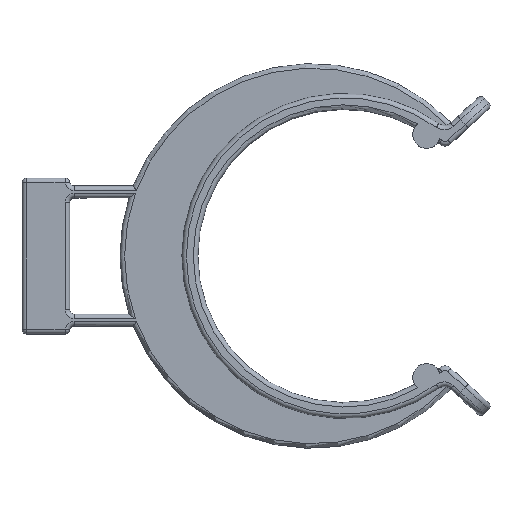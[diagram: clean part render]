
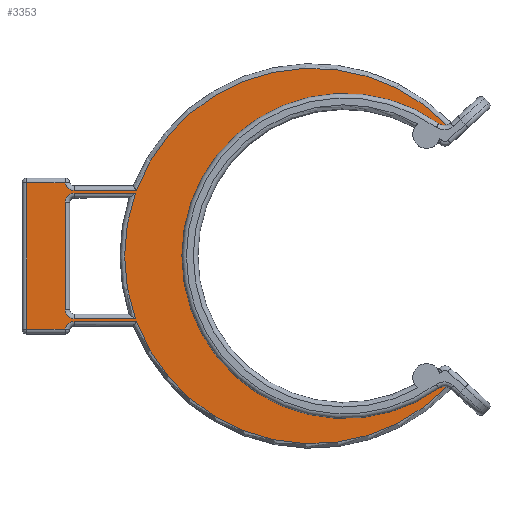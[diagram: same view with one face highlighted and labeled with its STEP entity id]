
A CAD part, top view. The second image highlights one B-rep face of the part: STEP entity #3353.
In plain terms, the highlighted planar face has unit normal (0, 0, 1).
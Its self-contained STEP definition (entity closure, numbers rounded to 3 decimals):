
#595=CARTESIAN_POINT('',(-3.5,0.,-2.75));
#596=DIRECTION('',(0.,0.,1.));
#597=DIRECTION('',(0.717,0.697,0.));
#598=AXIS2_PLACEMENT_3D('',#595,#596,#597);
#619=CARTESIAN_POINT('',(11.19,14.299,-2.75));
#620=CARTESIAN_POINT('',(11.116,14.276,-2.75));
#621=CARTESIAN_POINT('',(10.967,14.25,-2.75));
#622=CARTESIAN_POINT('',(10.737,14.261,-2.75));
#623=CARTESIAN_POINT('',(10.518,14.323,-2.75));
#624=CARTESIAN_POINT('',(10.382,14.397,-2.75));
#625=CARTESIAN_POINT('',(10.321,14.441,-2.75));
#627=CARTESIAN_POINT('',(0.,0.,-2.75));
#628=DIRECTION('',(0.,0.,-1.));
#629=DIRECTION('',(0.582,-0.813,0.));
#630=AXIS2_PLACEMENT_3D('',#627,#628,#629);
#632=CARTESIAN_POINT('',(10.321,-14.441,-2.75));
#633=CARTESIAN_POINT('',(10.382,-14.397,-2.75));
#634=CARTESIAN_POINT('',(10.518,-14.323,-2.75));
#635=CARTESIAN_POINT('',(10.737,-14.261,-2.75));
#636=CARTESIAN_POINT('',(10.967,-14.25,-2.75));
#637=CARTESIAN_POINT('',(11.116,-14.276,-2.75));
#638=CARTESIAN_POINT('',(11.19,-14.299,-2.75));
#640=DIRECTION('',(1.,0.,0.));
#641=VECTOR('',#640,6.678);
#642=CARTESIAN_POINT('',(-29.5,-6.85,-2.75));
#643=LINE('',#642,#641);
#670=CARTESIAN_POINT('',(-29.5,-5.85,-2.75));
#671=DIRECTION('',(0.,0.,1.));
#672=DIRECTION('',(-1.,0.,0.));
#673=AXIS2_PLACEMENT_3D('',#670,#671,#672);
#720=DIRECTION('',(0.,-1.,0.));
#721=VECTOR('',#720,11.7);
#722=CARTESIAN_POINT('',(-30.5,5.85,-2.75));
#723=LINE('',#722,#721);
#734=CARTESIAN_POINT('',(-29.5,5.85,-2.75));
#735=DIRECTION('',(0.,0.,1.));
#736=DIRECTION('',(0.,1.,0.));
#737=AXIS2_PLACEMENT_3D('',#734,#735,#736);
#979=DIRECTION('',(-1.,0.,0.));
#980=VECTOR('',#979,6.678);
#981=CARTESIAN_POINT('',(-22.822,6.85,-2.75));
#982=LINE('',#981,#980);
#995=CARTESIAN_POINT('',(-3.5,0.,-2.75));
#996=DIRECTION('',(0.,0.,1.));
#997=DIRECTION('',(-0.943,0.334,0.));
#998=AXIS2_PLACEMENT_3D('',#995,#996,#997);
#1260=DIRECTION('',(0.,-1.,0.));
#1261=VECTOR('',#1260,16.);
#1262=CARTESIAN_POINT('',(-34.7,8.,-2.75));
#1263=LINE('',#1262,#1261);
#1269=DIRECTION('',(-1.,0.,0.));
#1270=VECTOR('',#1269,4.211);
#1271=CARTESIAN_POINT('',(-30.489,-8.,-2.75));
#1272=LINE('',#1271,#1270);
#1292=CARTESIAN_POINT('',(-29.5,-8.15,-2.75));
#1293=DIRECTION('',(0.,0.,1.));
#1294=DIRECTION('',(0.,1.,0.));
#1295=AXIS2_PLACEMENT_3D('',#1292,#1293,#1294);
#1311=DIRECTION('',(-1.,0.,0.));
#1312=VECTOR('',#1311,6.787);
#1313=CARTESIAN_POINT('',(-22.713,-7.15,-2.75));
#1314=LINE('',#1313,#1312);
#1856=CARTESIAN_POINT('',(-3.5,0.,-2.75));
#1857=DIRECTION('',(0.,0.,1.));
#1858=DIRECTION('',(-0.937,-0.349,0.));
#1859=AXIS2_PLACEMENT_3D('',#1856,#1857,#1858);
#1875=DIRECTION('',(1.,0.,0.));
#1876=VECTOR('',#1875,4.211);
#1877=CARTESIAN_POINT('',(-34.7,8.,-2.75));
#1878=LINE('',#1877,#1876);
#1903=CARTESIAN_POINT('',(-29.5,8.15,-2.75));
#1904=DIRECTION('',(0.,0.,1.));
#1905=DIRECTION('',(-0.989,-0.15,0.));
#1906=AXIS2_PLACEMENT_3D('',#1903,#1904,#1905);
#1930=DIRECTION('',(1.,0.,0.));
#1931=VECTOR('',#1930,6.787);
#1932=CARTESIAN_POINT('',(-29.5,7.15,-2.75));
#1933=LINE('',#1932,#1931);
#2051=CARTESIAN_POINT('',(10.324,-14.439,-2.75));
#2052=CARTESIAN_POINT('',(10.324,14.439,-2.75));
#2053=VERTEX_POINT('',#2051);
#2054=VERTEX_POINT('',#2052);
#2099=VERTEX_POINT('',#638);
#2100=VERTEX_POINT('',#619);
#2249=CARTESIAN_POINT('',(-29.5,-6.85,-2.75));
#2250=CARTESIAN_POINT('',(-22.822,-6.85,-2.75));
#2251=VERTEX_POINT('',#2249);
#2252=VERTEX_POINT('',#2250);
#2259=CARTESIAN_POINT('',(-30.5,-5.85,-2.75));
#2260=VERTEX_POINT('',#2259);
#2263=CARTESIAN_POINT('',(-30.5,5.85,-2.75));
#2264=VERTEX_POINT('',#2263);
#2267=CARTESIAN_POINT('',(-29.5,6.85,-2.75));
#2268=VERTEX_POINT('',#2267);
#2271=CARTESIAN_POINT('',(-22.822,6.85,-2.75));
#2272=VERTEX_POINT('',#2271);
#2277=CARTESIAN_POINT('',(-22.713,-7.15,-2.75));
#2278=CARTESIAN_POINT('',(-29.5,-7.15,-2.75));
#2279=VERTEX_POINT('',#2277);
#2280=VERTEX_POINT('',#2278);
#2281=CARTESIAN_POINT('',(-29.5,7.15,-2.75));
#2282=CARTESIAN_POINT('',(-22.713,7.15,-2.75));
#2283=VERTEX_POINT('',#2281);
#2284=VERTEX_POINT('',#2282);
#2327=CARTESIAN_POINT('',(-34.7,8.,-2.75));
#2328=CARTESIAN_POINT('',(-30.489,8.,-2.75));
#2329=VERTEX_POINT('',#2327);
#2330=VERTEX_POINT('',#2328);
#2355=CARTESIAN_POINT('',(-30.489,-8.,-2.75));
#2356=CARTESIAN_POINT('',(-34.7,-8.,-2.75));
#2357=VERTEX_POINT('',#2355);
#2358=VERTEX_POINT('',#2356);
#3311=CARTESIAN_POINT('',(-35.2,-8.5,-2.75));
#3312=DIRECTION('',(0.,0.,1.));
#3313=DIRECTION('',(1.,0.,0.));
#3314=AXIS2_PLACEMENT_3D('',#3311,#3312,#3313);
#3315=PLANE('',#3314);
#3317=ORIENTED_EDGE('',*,*,#3316,.T.);
#3319=ORIENTED_EDGE('',*,*,#3318,.T.);
#3321=ORIENTED_EDGE('',*,*,#3320,.T.);
#3322=ORIENTED_EDGE('',*,*,#3301,.F.);
#3323=ORIENTED_EDGE('',*,*,#3054,.T.);
#3324=ORIENTED_EDGE('',*,*,#3119,.F.);
#3326=ORIENTED_EDGE('',*,*,#3325,.T.);
#3328=ORIENTED_EDGE('',*,*,#3327,.F.);
#3330=ORIENTED_EDGE('',*,*,#3329,.T.);
#3332=ORIENTED_EDGE('',*,*,#3331,.T.);
#3334=ORIENTED_EDGE('',*,*,#3333,.T.);
#3336=ORIENTED_EDGE('',*,*,#3335,.F.);
#3337=EDGE_LOOP('',(#3317,#3319,#3321,#3322,#3323,#3324,#3326,#3328,#3330,#3332,
#3334,#3336));
#3338=FACE_OUTER_BOUND('',#3337,.F.);
#3340=ORIENTED_EDGE('',*,*,#3339,.T.);
#3342=ORIENTED_EDGE('',*,*,#3341,.F.);
#3344=ORIENTED_EDGE('',*,*,#3343,.T.);
#3346=ORIENTED_EDGE('',*,*,#3345,.T.);
#3348=ORIENTED_EDGE('',*,*,#3347,.T.);
#3350=ORIENTED_EDGE('',*,*,#3349,.T.);
#3351=EDGE_LOOP('',(#3340,#3342,#3344,#3346,#3348,#3350));
#3352=FACE_BOUND('',#3351,.F.);
#3353=ADVANCED_FACE('',(#3338,#3352),#3315,.T.);
#599=CIRCLE('',#598,20.5);
#626=B_SPLINE_CURVE_WITH_KNOTS('',3,(#619,#620,#621,#622,#623,#624,#625),
.UNSPECIFIED.,.F.,.F.,(4,1,1,1,4),(0.,0.25,0.5,0.75,1.),
.UNSPECIFIED.);
#631=CIRCLE('',#630,17.75);
#639=B_SPLINE_CURVE_WITH_KNOTS('',3,(#632,#633,#634,#635,#636,#637,#638),
.UNSPECIFIED.,.F.,.F.,(4,1,1,1,4),(0.,0.25,0.5,0.75,1.),
.UNSPECIFIED.);
#674=CIRCLE('',#673,1.);
#738=CIRCLE('',#737,1.);
#999=CIRCLE('',#998,20.5);
#1296=CIRCLE('',#1295,1.);
#1860=CIRCLE('',#1859,20.5);
#1907=CIRCLE('',#1906,1.);
#3054=EDGE_CURVE('',#2100,#2054,#626,.T.);
#3119=EDGE_CURVE('',#2053,#2054,#631,.T.);
#3301=EDGE_CURVE('',#2100,#2284,#599,.T.);
#3316=EDGE_CURVE('',#2329,#2330,#1878,.T.);
#3318=EDGE_CURVE('',#2330,#2283,#1907,.T.);
#3320=EDGE_CURVE('',#2283,#2284,#1933,.T.);
#3325=EDGE_CURVE('',#2053,#2099,#639,.T.);
#3327=EDGE_CURVE('',#2279,#2099,#1860,.T.);
#3329=EDGE_CURVE('',#2279,#2280,#1314,.T.);
#3331=EDGE_CURVE('',#2280,#2357,#1296,.T.);
#3333=EDGE_CURVE('',#2357,#2358,#1272,.T.);
#3335=EDGE_CURVE('',#2329,#2358,#1263,.T.);
#3339=EDGE_CURVE('',#2251,#2252,#643,.T.);
#3341=EDGE_CURVE('',#2272,#2252,#999,.T.);
#3343=EDGE_CURVE('',#2272,#2268,#982,.T.);
#3345=EDGE_CURVE('',#2268,#2264,#738,.T.);
#3347=EDGE_CURVE('',#2264,#2260,#723,.T.);
#3349=EDGE_CURVE('',#2260,#2251,#674,.T.);
